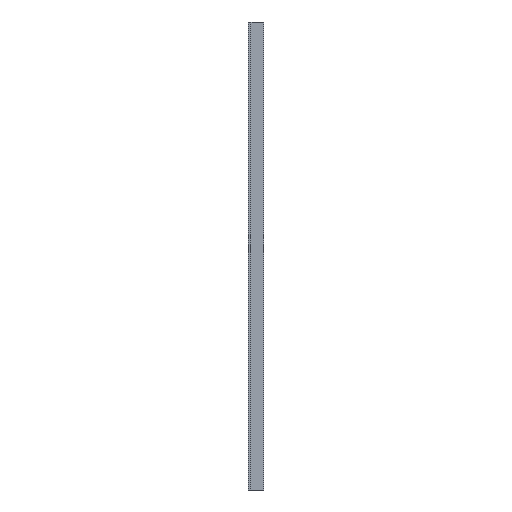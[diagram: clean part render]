
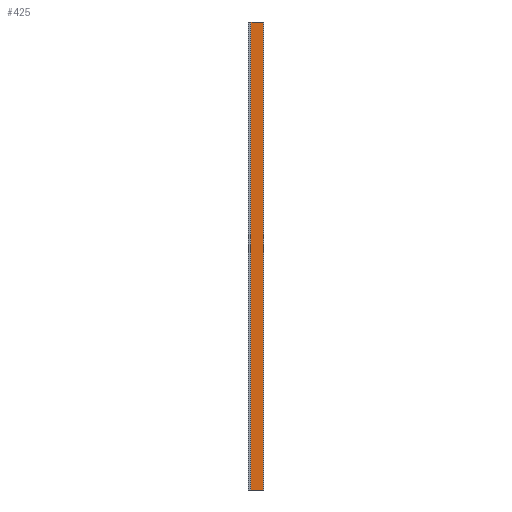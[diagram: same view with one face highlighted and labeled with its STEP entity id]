
A CAD part, left-side view. The second image highlights one B-rep face of the part: STEP entity #425.
In plain terms, the highlighted planar face has unit normal (-1, 0, 0).
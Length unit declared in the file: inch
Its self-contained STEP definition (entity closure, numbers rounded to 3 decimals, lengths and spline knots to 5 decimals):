
#27=PLANE('',#485);
#49=FACE_OUTER_BOUND('',#71,.T.);
#71=EDGE_LOOP('',(#373,#374,#375,#376));
#92=LINE('',#670,#136);
#97=LINE('',#685,#141);
#115=LINE('',#728,#159);
#116=LINE('',#730,#160);
#136=VECTOR('',#540,0.3937);
#141=VECTOR('',#555,0.3937);
#159=VECTOR('',#603,0.3937);
#160=VECTOR('',#606,0.3937);
#200=VERTEX_POINT('',#667);
#201=VERTEX_POINT('',#669);
#206=VERTEX_POINT('',#684);
#216=VERTEX_POINT('',#726);
#245=EDGE_CURVE('',#201,#200,#92,.T.);
#253=EDGE_CURVE('',#201,#206,#97,.T.);
#275=EDGE_CURVE('',#200,#216,#115,.T.);
#276=EDGE_CURVE('',#206,#216,#116,.T.);
#373=ORIENTED_EDGE('',*,*,#245,.T.);
#374=ORIENTED_EDGE('',*,*,#275,.T.);
#375=ORIENTED_EDGE('',*,*,#276,.F.);
#376=ORIENTED_EDGE('',*,*,#253,.F.);
#425=ADVANCED_FACE('',(#49),#27,.T.);
#485=AXIS2_PLACEMENT_3D('',#729,#604,#605);
#540=DIRECTION('',(0.,-1.,0.));
#555=DIRECTION('',(0.,0.,1.));
#603=DIRECTION('',(0.,0.,1.));
#604=DIRECTION('center_axis',(-1.,0.,0.));
#605=DIRECTION('ref_axis',(0.,-1.,0.));
#606=DIRECTION('',(0.,-1.,0.));
#667=CARTESIAN_POINT('',(-0.15,0.,0.));
#669=CARTESIAN_POINT('',(-0.15,3.196,0.));
#670=CARTESIAN_POINT('',(-0.15,3.196,0.));
#684=CARTESIAN_POINT('',(-0.15,3.196,120.));
#685=CARTESIAN_POINT('',(-0.15,3.196,0.));
#726=CARTESIAN_POINT('',(-0.15,0.,120.));
#728=CARTESIAN_POINT('',(-0.15,0.,0.));
#729=CARTESIAN_POINT('Origin',(-0.15,3.196,0.));
#730=CARTESIAN_POINT('',(-0.15,3.196,120.));
